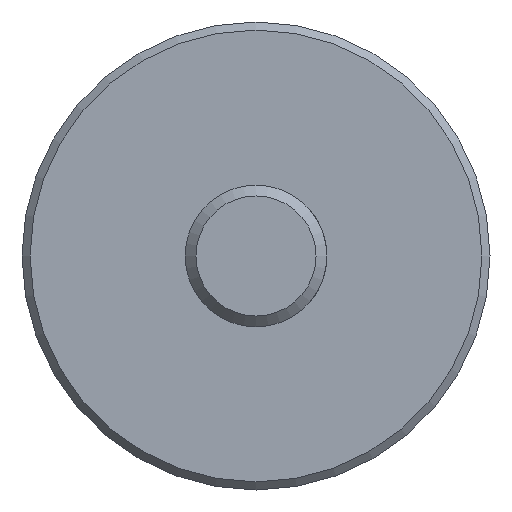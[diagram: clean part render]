
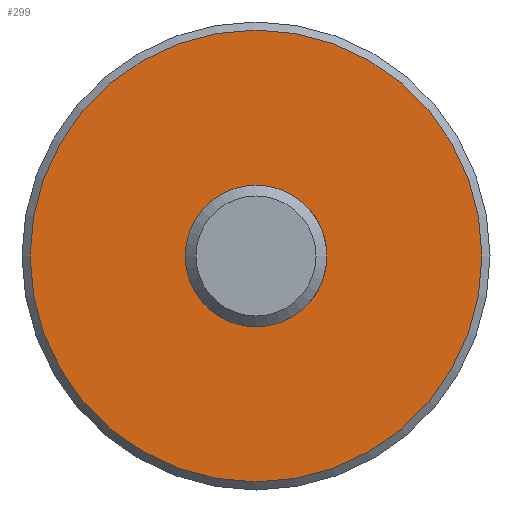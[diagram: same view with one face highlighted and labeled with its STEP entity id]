
A CAD part, front view. The second image highlights one B-rep face of the part: STEP entity #299.
In plain terms, the highlighted planar face has unit normal (0, -1, 0).
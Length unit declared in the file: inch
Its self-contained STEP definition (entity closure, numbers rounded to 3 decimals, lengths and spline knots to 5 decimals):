
#3 = EDGE_LOOP ( 'NONE', ( #32 ) ) ;
#32 = ORIENTED_EDGE ( 'NONE', *, *, #99, .F. ) ;
#59 = DIRECTION ( 'NONE',  ( 0., 0., 1. ) ) ;
#71 = CARTESIAN_POINT ( 'NONE',  ( 0.3937, 3.28, 0. ) ) ;
#74 = AXIS2_PLACEMENT_3D ( 'NONE', #71, #245, #340 ) ;
#99 = EDGE_CURVE ( 'NONE', #285, #285, #500, .T. ) ;
#106 = CARTESIAN_POINT ( 'NONE',  ( 0., 3.28, 0. ) ) ;
#128 = CIRCLE ( 'NONE', #181, 0.3937 ) ;
#155 = CARTESIAN_POINT ( 'NONE',  ( 0., 3.28, 0.3937 ) ) ;
#181 = AXIS2_PLACEMENT_3D ( 'NONE', #384, #515, #297 ) ;
#194 = VERTEX_POINT ( 'NONE', #155 ) ;
#227 = AXIS2_PLACEMENT_3D ( 'NONE', #106, #504, #59 ) ;
#228 = EDGE_LOOP ( 'NONE', ( #314 ) ) ;
#234 = EDGE_CURVE ( 'NONE', #194, #194, #128, .T. ) ;
#245 = DIRECTION ( 'NONE',  ( 0., 1., 0. ) ) ;
#255 = PLANE ( 'NONE',  #74 ) ;
#285 = VERTEX_POINT ( 'NONE', #560 ) ;
#297 = DIRECTION ( 'NONE',  ( 0., 0., 1. ) ) ;
#299 = ADVANCED_FACE ( 'NONE', ( #388, #474 ), #255, .F. ) ;
#314 = ORIENTED_EDGE ( 'NONE', *, *, #234, .T. ) ;
#340 = DIRECTION ( 'NONE',  ( 0., 0., 1. ) ) ;
#384 = CARTESIAN_POINT ( 'NONE',  ( 0., 3.28, 0. ) ) ;
#388 = FACE_OUTER_BOUND ( 'NONE', #3, .T. ) ;
#474 = FACE_BOUND ( 'NONE', #228, .T. ) ;
#500 = CIRCLE ( 'NONE', #227, 1.255 ) ;
#504 = DIRECTION ( 'NONE',  ( 0., 1., 0. ) ) ;
#515 = DIRECTION ( 'NONE',  ( 0., 1., 0. ) ) ;
#560 = CARTESIAN_POINT ( 'NONE',  ( 0., 3.28, 1.255 ) ) ;
